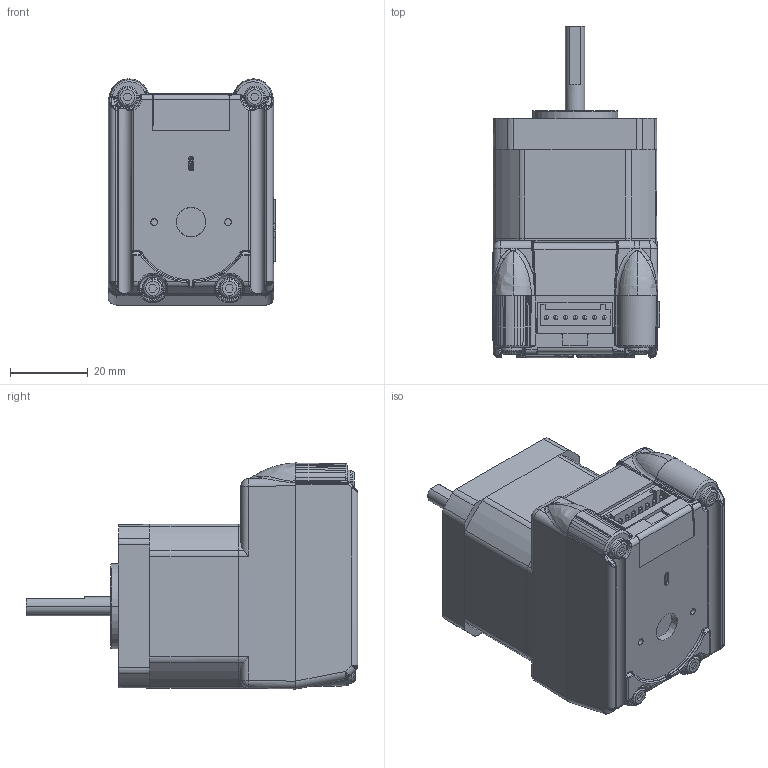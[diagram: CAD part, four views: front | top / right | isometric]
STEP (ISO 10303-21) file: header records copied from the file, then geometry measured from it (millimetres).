
FILE_DESCRIPTION(('MDrive17 Plus Standard Motor, Double Stack'),'1');
FILE_NAME('MDrive17 Plus Standard Motor, Double Stack.stp',' ',('P. Bordua, C.I.D.'),('Intelligent Motion Systems, Inc.'),'ACIS Interop R17','Kubotek KeyCreator V7.0.0 (5795)','Kubotek USA, Inc.');
FILE_SCHEMA(('automotive_design'));
Length unit declared in the file: inch
Products named in the file (3): MDrive17 Plus[9]
Bounding box: 43.22 x 85.6 x 58.31 mm (x, y, z)
Volume: 120765.3 mm3; surface area: 25441.4 mm2
Topology: 3 solids, 3 shells, 1264 faces, 3227 edges, 1991 vertices
Faces by surface type: plane 464, bspline 406, cylinder 259, torus 62, cone 49, sphere 24
Entity records: 115701 total; most frequent: CARTESIAN_POINT 49548, PRESENTATION_STYLE_ASSIGNMENT 7654, COLOUR_RGB 7654, STYLED_ITEM 6456, ORIENTED_EDGE 6402, CURVE_STYLE 4399, DRAUGHTING_PRE_DEFINED_CURVE_FONT 4399, DIRECTION 3403
